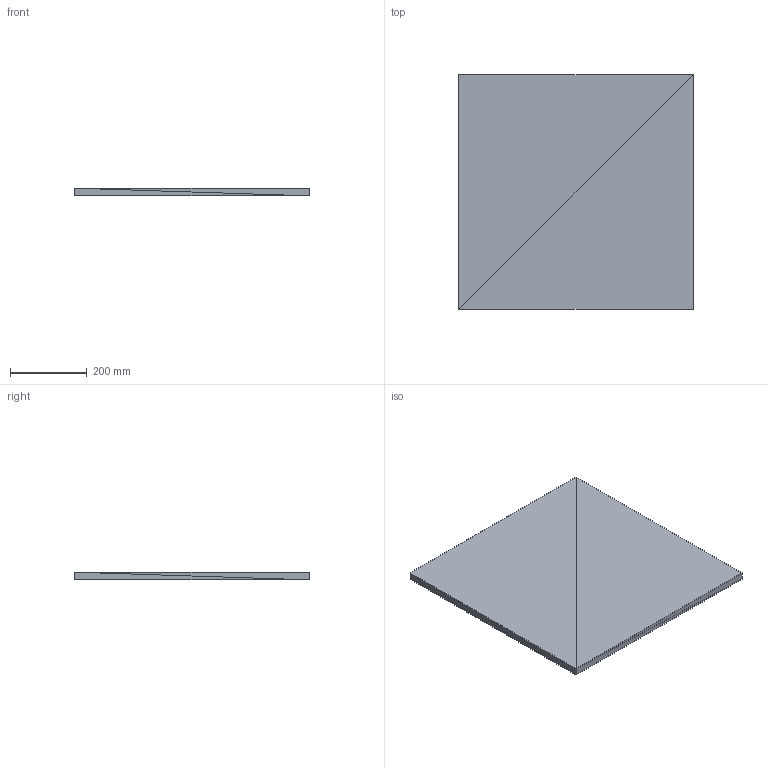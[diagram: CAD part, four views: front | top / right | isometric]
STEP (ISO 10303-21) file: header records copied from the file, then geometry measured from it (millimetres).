
FILE_DESCRIPTION(('ISINAC STEP AP214'),'2;1');
FILE_NAME('ISINAC_C.610_20mm_ADHESIVO','2026-05-03T10:49:19',('ISINAC'),('www.isinac.com'),'ISINAC BIM Generator 1.0','','');
FILE_SCHEMA(('AUTOMOTIVE_DESIGN'));
Length unit declared in the file: millimetre
Products named in the file (1): ISINAC_C.610_20mm_ADHESIVO
Bounding box: 610 x 610 x 20 mm (x, y, z)
Surface area: 793000 mm2 (no closed solid volume)
Topology: 0 solids, 12 shells, 12 faces, 36 edges, 36 vertices
Faces by surface type: plane 12
Entity records: 145 total; most frequent: CARTESIAN_POINT 48, DIRECTION 24, POLY_LOOP 12, FACE_OUTER_BOUND 12, AXIS2_PLACEMENT_3D 12, PLANE 12, FACE_SURFACE 12, CLOSED_SHELL 1
